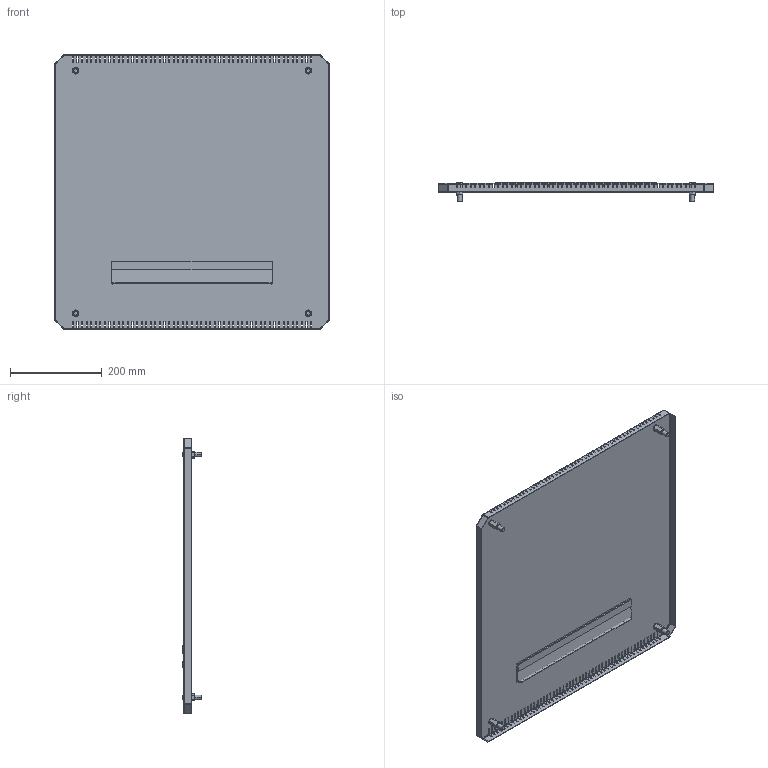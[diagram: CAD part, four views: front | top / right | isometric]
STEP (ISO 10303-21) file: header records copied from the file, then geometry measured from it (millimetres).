
FILE_DESCRIPTION (( 'STEP AP203' ), '1' );
FILE_NAME ('R 60.60 IK Ïàíåëü òåëåêîììóíèêàöèîííàÿ ïîòîëî÷íàÿ ñ ùåò. ââîäîì.STEP', '2013-01-12T09:18:41', ( 'System' ), ( '' ), 'SwSTEP 2.0', 'SolidWorks 2012', '' );
FILE_SCHEMA (( 'CONFIG_CONTROL_DESIGN' ));
Length unit declared in the file: millimetre
Products named in the file (1): R 60.60 IK Ïàíåëü òåëåêîììóíèêàöèîííàÿ ïîòîëî÷íàÿ ñ ùåò. ââîäîì
Bounding box: 600 x 42.72 x 600 mm (x, y, z)
Volume: 585952.2 mm3; surface area: 831591.5 mm2
Topology: 6 solids, 10 shells, 1384 faces, 3708 edges, 2136 vertices
Faces by surface type: plane 1016, cylinder 272, cone 56, bspline 16, torus 16, sphere 8
Entity records: 43111 total; most frequent: CARTESIAN_POINT 8609, ORIENTED_EDGE 7384, DIRECTION 6960, EDGE_CURVE 3692, VECTOR 2926, LINE 2926, VERTEX_POINT 2136, AXIS2_PLACEMENT_3D 2017
